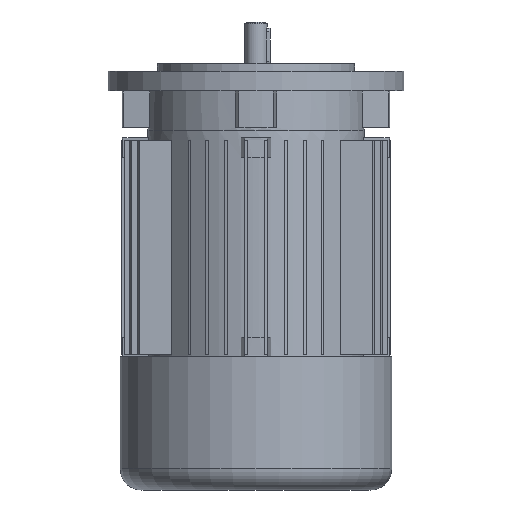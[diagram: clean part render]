
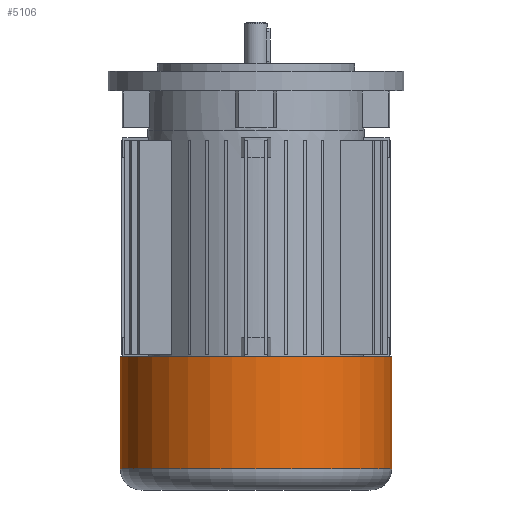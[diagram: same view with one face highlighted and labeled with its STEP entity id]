
A CAD part, front view. The second image highlights one B-rep face of the part: STEP entity #5106.
In plain terms, the highlighted cylindrical face has radius 55.1 mm (diameter 110.2 mm), a partial arc.
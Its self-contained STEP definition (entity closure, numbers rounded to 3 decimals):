
#308 = CARTESIAN_POINT ( 'NONE',  ( 0., 0., -44.5 ) ) ;
#412 = VECTOR ( 'NONE', #3081, 1000. ) ;
#1875 = CARTESIAN_POINT ( 'NONE',  ( -55.1, 0., -89.9 ) ) ;
#2181 = CARTESIAN_POINT ( 'NONE',  ( 55.1, 0., -89.9 ) ) ;
#2939 = CARTESIAN_POINT ( 'NONE',  ( 0., 0., -89.9 ) ) ;
#3081 = DIRECTION ( 'NONE',  ( 0., 0., 1. ) ) ;
#3337 = EDGE_LOOP ( 'NONE', ( #8942, #8355, #6216, #4222 ) ) ;
#3395 = FACE_OUTER_BOUND ( 'NONE', #3337, .T. ) ;
#3914 = AXIS2_PLACEMENT_3D ( 'NONE', #308, #9296, #5450 ) ;
#3995 = DIRECTION ( 'NONE',  ( 0., 0., 1. ) ) ;
#4222 = ORIENTED_EDGE ( 'NONE', *, *, #11799, .F. ) ;
#4746 = CARTESIAN_POINT ( 'NONE',  ( 55.1, 0., -44.5 ) ) ;
#5106 = ADVANCED_FACE ( 'NONE', ( #3395 ), #14400, .T. ) ;
#5217 = AXIS2_PLACEMENT_3D ( 'NONE', #2939, #8112, #12012 ) ;
#5450 = DIRECTION ( 'NONE',  ( 1., 0., 0. ) ) ;
#6216 = ORIENTED_EDGE ( 'NONE', *, *, #7742, .T. ) ;
#6538 = CARTESIAN_POINT ( 'NONE',  ( 55.1, 0., 0. ) ) ;
#6723 = CARTESIAN_POINT ( 'NONE',  ( -55.1, 0., 0. ) ) ;
#7742 = EDGE_CURVE ( 'NONE', #12627, #16104, #15706, .T. ) ;
#7886 = EDGE_CURVE ( 'NONE', #7988, #12627, #8119, .T. ) ;
#7921 = VECTOR ( 'NONE', #3995, 1000. ) ;
#7988 = VERTEX_POINT ( 'NONE', #1875 ) ;
#8112 = DIRECTION ( 'NONE',  ( 0., 0., 1. ) ) ;
#8119 = CIRCLE ( 'NONE', #5217, 55.1 ) ;
#8355 = ORIENTED_EDGE ( 'NONE', *, *, #7886, .T. ) ;
#8469 = VERTEX_POINT ( 'NONE', #9617 ) ;
#8551 = DIRECTION ( 'NONE',  ( 1., 0., 0. ) ) ;
#8942 = ORIENTED_EDGE ( 'NONE', *, *, #10256, .F. ) ;
#8944 = AXIS2_PLACEMENT_3D ( 'NONE', #13750, #14804, #8551 ) ;
#9296 = DIRECTION ( 'NONE',  ( 0., 0., 1. ) ) ;
#9617 = CARTESIAN_POINT ( 'NONE',  ( -55.1, 0., -44.5 ) ) ;
#10256 = EDGE_CURVE ( 'NONE', #7988, #8469, #14838, .T. ) ;
#11799 = EDGE_CURVE ( 'NONE', #8469, #16104, #12934, .T. ) ;
#12012 = DIRECTION ( 'NONE',  ( 1., 0., 0. ) ) ;
#12627 = VERTEX_POINT ( 'NONE', #2181 ) ;
#12934 = CIRCLE ( 'NONE', #3914, 55.1 ) ;
#13750 = CARTESIAN_POINT ( 'NONE',  ( 0., 0., 0. ) ) ;
#14400 = CYLINDRICAL_SURFACE ( 'NONE', #8944, 55.1 ) ;
#14804 = DIRECTION ( 'NONE',  ( 0., 0., 1. ) ) ;
#14838 = LINE ( 'NONE', #6723, #412 ) ;
#15706 = LINE ( 'NONE', #6538, #7921 ) ;
#16104 = VERTEX_POINT ( 'NONE', #4746 ) ;
